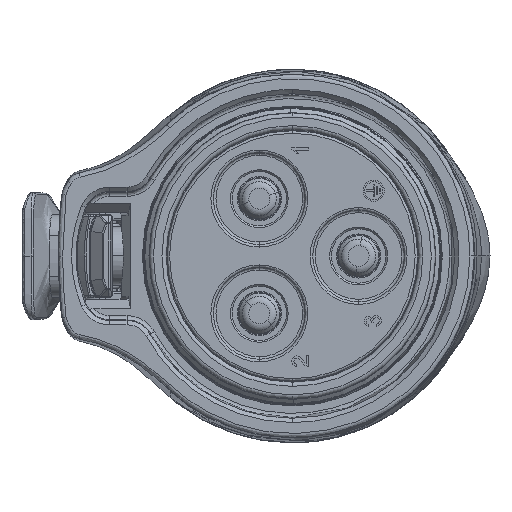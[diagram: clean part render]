
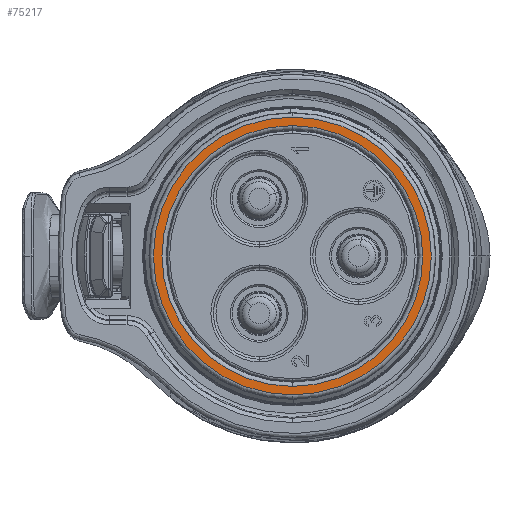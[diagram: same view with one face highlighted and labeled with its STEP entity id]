
A CAD part, left-side view. The second image highlights one B-rep face of the part: STEP entity #75217.
In plain terms, the highlighted planar face has unit normal (-1, 0, 0).
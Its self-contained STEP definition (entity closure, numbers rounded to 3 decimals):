
#2255 = DIRECTION ( 'NONE',  ( 0., 0., -1. ) ) ;
#4126 = AXIS2_PLACEMENT_3D ( 'NONE', #24761, #44218, #10314 ) ;
#4705 = EDGE_LOOP ( 'NONE', ( #88166, #80678 ) ) ;
#10314 = DIRECTION ( 'NONE',  ( 0., 0., -1. ) ) ;
#11173 = EDGE_CURVE ( 'NONE', #87114, #88697, #37339, .T. ) ;
#19716 = DIRECTION ( 'NONE',  ( 0., 0., -1. ) ) ;
#20047 = AXIS2_PLACEMENT_3D ( 'NONE', #88054, #47773, #19716 ) ;
#22612 = DIRECTION ( 'NONE',  ( 1., 0., 0. ) ) ;
#23459 = EDGE_CURVE ( 'NONE', #88157, #37353, #25686, .T. ) ;
#24341 = CARTESIAN_POINT ( 'NONE',  ( 0., 0., 0. ) ) ;
#24761 = CARTESIAN_POINT ( 'NONE',  ( 0., 0., 0. ) ) ;
#25686 = CIRCLE ( 'NONE', #4126, 15.352 ) ;
#28897 = CARTESIAN_POINT ( 'NONE',  ( 0., 0., -15.352 ) ) ;
#32111 = EDGE_LOOP ( 'NONE', ( #66543, #58361 ) ) ;
#37339 = CIRCLE ( 'NONE', #20047, 16.353 ) ;
#37353 = VERTEX_POINT ( 'NONE', #28897 ) ;
#37400 = PLANE ( 'NONE',  #66815 ) ;
#37835 = FACE_OUTER_BOUND ( 'NONE', #4705, .T. ) ;
#37892 = DIRECTION ( 'NONE',  ( -1., 0., 0. ) ) ;
#38283 = CARTESIAN_POINT ( 'NONE',  ( 0., 0., 16.353 ) ) ;
#44218 = DIRECTION ( 'NONE',  ( 1., 0., 0. ) ) ;
#45171 = AXIS2_PLACEMENT_3D ( 'NONE', #24341, #37892, #72349 ) ;
#46744 = DIRECTION ( 'NONE',  ( 1., 0., 0. ) ) ;
#47773 = DIRECTION ( 'NONE',  ( -1., 0., 0. ) ) ;
#50665 = CARTESIAN_POINT ( 'NONE',  ( 0., 0., 0. ) ) ;
#52657 = EDGE_CURVE ( 'NONE', #37353, #88157, #53509, .T. ) ;
#53509 = CIRCLE ( 'NONE', #73773, 15.352 ) ;
#55299 = CIRCLE ( 'NONE', #45171, 16.353 ) ;
#58361 = ORIENTED_EDGE ( 'NONE', *, *, #23459, .T. ) ;
#66543 = ORIENTED_EDGE ( 'NONE', *, *, #52657, .T. ) ;
#66815 = AXIS2_PLACEMENT_3D ( 'NONE', #81161, #46744, #74355 ) ;
#72349 = DIRECTION ( 'NONE',  ( 0., 0., -1. ) ) ;
#72417 = EDGE_CURVE ( 'NONE', #88697, #87114, #55299, .T. ) ;
#73773 = AXIS2_PLACEMENT_3D ( 'NONE', #50665, #22612, #2255 ) ;
#74355 = DIRECTION ( 'NONE',  ( 0., 0., -1. ) ) ;
#75217 = ADVANCED_FACE ( 'NONE', ( #87925, #37835 ), #37400, .F. ) ;
#75485 = CARTESIAN_POINT ( 'NONE',  ( 0., 0., 15.352 ) ) ;
#80678 = ORIENTED_EDGE ( 'NONE', *, *, #72417, .T. ) ;
#81161 = CARTESIAN_POINT ( 'NONE',  ( 0., 14.85, 0. ) ) ;
#87114 = VERTEX_POINT ( 'NONE', #88494 ) ;
#87925 = FACE_BOUND ( 'NONE', #32111, .T. ) ;
#88054 = CARTESIAN_POINT ( 'NONE',  ( 0., 0., 0. ) ) ;
#88157 = VERTEX_POINT ( 'NONE', #75485 ) ;
#88166 = ORIENTED_EDGE ( 'NONE', *, *, #11173, .T. ) ;
#88494 = CARTESIAN_POINT ( 'NONE',  ( 0., 0., -16.353 ) ) ;
#88697 = VERTEX_POINT ( 'NONE', #38283 ) ;
